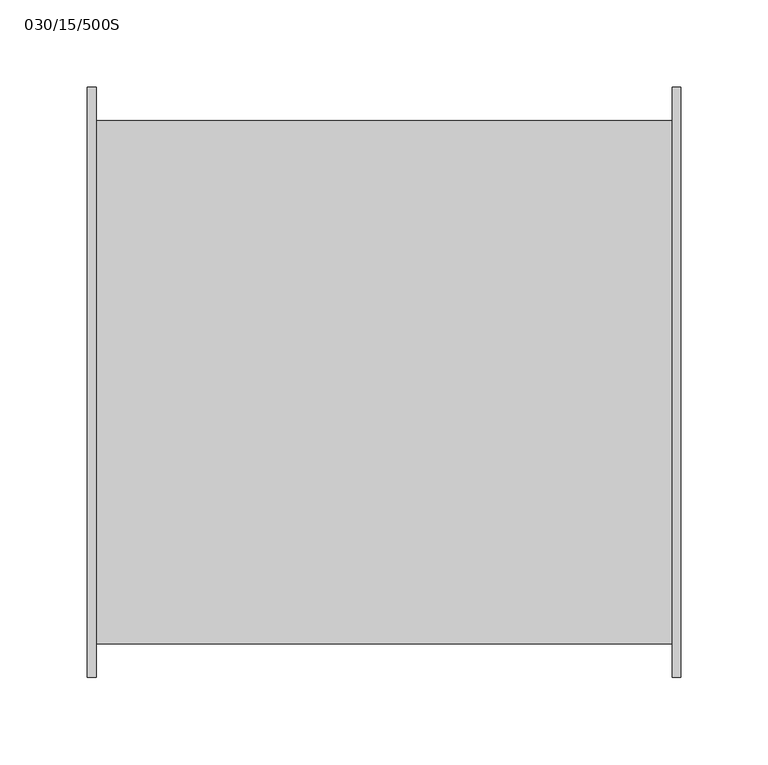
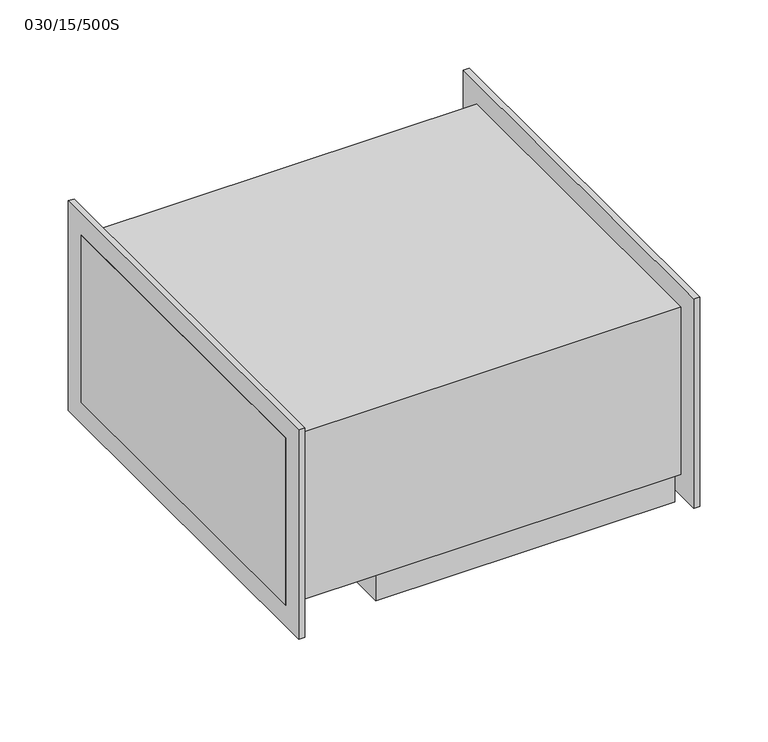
"""IFC4 building model written with IfcOpenShell, lengths in millimetres: unitary equipment geometry, VE-Wentylator-ParaForma-Harmann-DRB-Nawiewny : 030/15/500S."""

from ifc_helpers import new_model, si_unit, point, frame, frame_2d, origin, place, context, project, spatial, polyline, circle_curve, trimmed, segment, composite_curve, outline, extrude, source, transform, mapped, element, save
from ifc_brep_helpers import plane_surface, revolved_surface, advanced_brep


def unitary_equipment_030_15_500s_d7689226(model_context):
    return source(origin(), model_context, "Body", "SolidModel", [
        extrude(outline(polyline([(-92.0, -147.2), (-92.0, 147.2), (161.5, 147.2), (161.5, -147.2), (-92.0, -147.2)]), holes=[polyline([(-87.0, 142.2), (-87.0, -142.2), (156.5, -142.2), (156.5, 142.2), (-87.0, 142.2)])]), frame((0.0, 0.0, -100.2), z_axis=(0.0, 0.0, 1.0), x_axis=(1.0, 0.0, 0.0)), (0.0, 0.0, 1.0), 25.0),
        extrude(outline(polyline([(170.0, -150.0), (-170.0, -150.0), (-170.0, 150.0), (170.0, 150.0), (170.0, -150.0)])), frame((0.0, 0.0, -75.0), z_axis=(0.0, 0.0, 1.0), x_axis=(1.0, 0.0, 0.0)), (0.0, 0.0, 1.0), 150.0),
        extrude(outline(polyline([(-169.2, -94.0), (-169.2, 94.0), (169.2, 94.0), (169.2, -94.0), (-169.2, -94.0)]), holes=[polyline([(-150.0, -75.0), (150.0, -75.0), (150.0, 75.0), (-150.0, 75.0), (-150.0, -75.0)])]), frame((165.0, 0.0, 0.0), z_axis=(1.0, 0.0, 0.0), x_axis=(0.0, 1.0, 0.0)), (0.0, 0.0, 1.0), 5.0),
        extrude(outline(polyline([(-169.2, -94.0), (-169.2, 94.0), (169.2, 94.0), (169.2, -94.0), (-169.2, -94.0)]), holes=[polyline([(-150.0, -75.0), (150.0, -75.0), (150.0, 75.0), (-150.0, 75.0), (-150.0, -75.0)])]), frame((-170.0, 0.0, 0.0), z_axis=(1.0, 0.0, 0.0), x_axis=(0.0, 1.0, 0.0)), (0.0, 0.0, 1.0), 5.0),
        extrude(outline(composite_curve([segment(polyline([(77.5, 27.5), (-22.5, 27.5)]), True, "CONTINUOUS"), segment(trimmed(circle_curve(frame_2d((-22.5, 32.5)), 5.0), [point((-22.5, 27.5))], [point((-27.5, 32.5))], False, "CARTESIAN"), True, "CONTINUOUS"), segment(polyline([(-27.5, 32.5), (-27.5, 117.5)]), True, "CONTINUOUS"), segment(trimmed(circle_curve(frame_2d((-22.5, 117.5)), 5.0), [point((-27.5, 117.5))], [point((-22.5, 122.5))], False, "CARTESIAN"), True, "CONTINUOUS"), segment(polyline([(-22.5, 122.5), (77.5, 122.5)]), True, "CONTINUOUS"), segment(trimmed(circle_curve(frame_2d((77.5, 117.5)), 5.0), [point((77.5, 122.5))], [point((82.5, 117.5))], False, "CARTESIAN"), True, "CONTINUOUS"), segment(polyline([(82.5, 117.5), (82.5, 32.5)]), True, "CONTINUOUS"), segment(trimmed(circle_curve(frame_2d((77.5, 32.5)), 5.0), [point((82.5, 32.5))], [point((77.5, 27.5))], False, "CARTESIAN"), True, "CONTINUOUS")], self_intersect=False)), frame((0.0, 0.0, -124.7), z_axis=(0.0, 0.0, 1.0), x_axis=(1.0, 0.0, 0.0)), (0.0, 0.0, 1.0), 49.5),
        advanced_brep(
        [(27.5, -34.8, -90.2), (27.5, -7.6, -90.2), (27.5, -54.8, -75.2), (27.5, 12.4, -75.2)],
        [
            (0, 1, circle_curve(frame((27.5, -21.2, -90.2), z_axis=(0.0, 0.0, -1.0), x_axis=(0.0, -1.0, 0.0)), 13.6)),
            (1, 0, circle_curve(frame((27.5, -21.2, -90.2), z_axis=(0.0, 0.0, -1.0), x_axis=(0.0, 1.0, 0.0)), 13.6)),
            (2, 3, circle_curve(frame((27.5, -21.2, -75.2), z_axis=(0.0, 0.0, 1.0), x_axis=(0.0, 1.0, 0.0)), 33.6)),
            (3, 2, circle_curve(frame((27.5, -21.2, -75.2), z_axis=(0.0, 0.0, 1.0), x_axis=(0.0, -1.0, 0.0)), 33.6)),
            (3, 1),
            (0, 2),
        ],
        [
            plane_surface(frame((27.5, -21.2, -90.2), z_axis=(0.0, 0.0, -1.0), x_axis=(-1.0, 0.0, 0.0))),
            plane_surface(frame((27.5, -21.2, -75.2), z_axis=(0.0, 0.0, 1.0), x_axis=(-1.0, 0.0, 0.0))),
            revolved_surface(polyline([(27.5, -34.8, -90.2), (27.5, -54.8, -75.2)]), (27.5, -21.2, -100.4), (0.0, 0.0, 1.0)),
            revolved_surface(polyline([(27.5, -7.599999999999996, -90.2), (27.5, 12.400000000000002, -75.2)]), (27.5, -21.2, -100.4), (0.0, 0.0, 1.0)),
        ],
        [
            (0, [[1, 2]]),
            (1, [[3, 4]]),
            (2, [[-4, 5, -1, 6]]),
            (3, [[-3, -6, -2, -5]]),
        ],
    ),
    ])


if __name__ == "__main__":
    model = new_model("IFC4")
    model_context = context("Model", 3, world=origin())
    ifc_project = project(units=[si_unit("LENGTHUNIT", "METRE", prefix="MILLI")], contexts=[model_context])
    site = spatial("IfcSite", under=ifc_project)
    building = spatial("IfcBuilding", under=site)
    placement = place(None, origin())
    unitary_equipment_030_15_500s_shape = unitary_equipment_030_15_500s_d7689226(model_context)
    element("IfcUnitaryEquipment", 1, ObjectType="VE-Wentylator-ParaForma-Harmann-DRB-Nawiewny : 030/15/500S", at=placement, inside=building, context=model_context, shape_type="MappedRepresentation", body=[
        mapped(unitary_equipment_030_15_500s_shape, transform((0.0, 0.0, 0.0), x_axis=(1.0, 0.0, 0.0), y_axis=(0.0, 1.0, 0.0), z_axis=(0.0, 0.0, 1.0))),
    ])
    save(model, "model.ifc")
